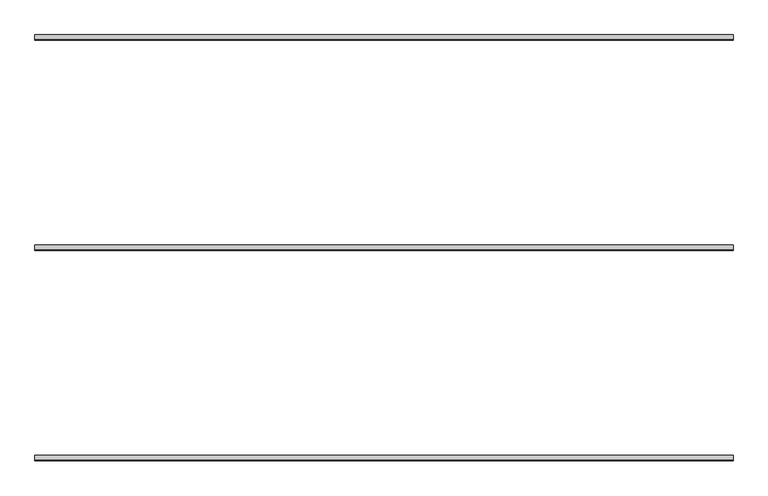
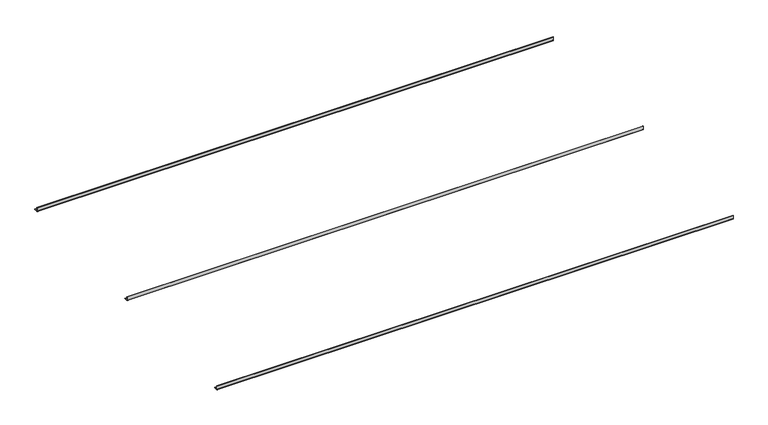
"""IFC4 building model written with IfcOpenShell, lengths in millimetres: proxy geometry, durlum_S4.7K : durlum_S4.7K."""

import ifcopenshell
import ifcopenshell.guid

model = None  # the IFC model being written
_history = None  # IfcOwnerHistory: only IFC2X3 demands one
_inside = {}  # id of a spatial element -> (the spatial element, [elements in it])
_under = {}  # id of a project, library or spatial element -> (it, [spatial elements below it])
_declared = {}  # id of a project -> (the project, [libraries it declares])
_typed = {}  # id of a type object -> (the type object, [elements of that type])
_made_of = {}  # id of a material, layer set ... -> (it, [elements and type objects made of it])


def new_model(schema):
    """Start an empty IFC model of exactly this schema.

    Asked for "IFC4X3", IfcOpenShell would pick the latest addendum, in which some entities
    have other attributes; the version numbers below select the first issue.
    IFC2X3 requires an IfcOwnerHistory on every rooted entity: one is made here for all.
    """
    global model, _history
    if schema == "IFC4X3":
        model = ifcopenshell.file(schema_version=(4, 3, 0, 0))
    else:
        model = ifcopenshell.file(schema=schema)
    _inside.clear()
    _under.clear()
    _declared.clear()
    _typed.clear()
    _made_of.clear()
    _history = None
    if model.schema == "IFC2X3":
        org = make("IfcOrganization", Name="unknown")
        user = make(
            "IfcPersonAndOrganization",
            ThePerson=make("IfcPerson", FamilyName="unknown"),
            TheOrganization=org,
        )
        app = make(
            "IfcApplication",
            ApplicationDeveloper=org,
            Version="unknown",
            ApplicationFullName="unknown",
            ApplicationIdentifier="unknown",
        )
        _history = make(
            "IfcOwnerHistory",
            OwningUser=user,
            OwningApplication=app,
            ChangeAction="ADDED",
            CreationDate=0,
        )
    return model


def make(cls, **values):
    """One entity of the class cls with the attributes given. An attribute that is None is left unset."""
    return model.create_entity(
        cls, **{name: value for name, value in values.items() if value is not None}
    )


def rooted(cls, **values):
    """An entity with a GlobalId (a new one), such as an element, a storey or a relation."""
    return make(cls, GlobalId=ifcopenshell.guid.new(), OwnerHistory=_history, **values)


def si_unit(unit_type, name, prefix=None):
    """IfcSIUnit, for example si_unit("LENGTHUNIT", "METRE", prefix="MILLI")."""
    return make("IfcSIUnit", UnitType=unit_type, Prefix=prefix, Name=name)


def assignment(units):
    """IfcUnitAssignment: the units of a project."""
    return None if units is None else make("IfcUnitAssignment", Units=units)


def point(xyz):
    """IfcCartesianPoint."""
    return None if xyz is None else make("IfcCartesianPoint", Coordinates=xyz)


def direction(xyz):
    """IfcDirection."""
    return None if xyz is None else make("IfcDirection", DirectionRatios=xyz)


def frame(location, z_axis=None, x_axis=None):
    """IfcAxis2Placement3D, a coordinate frame: its origin and axes. An axis left out is left unset."""
    return make(
        "IfcAxis2Placement3D",
        Location=point(location),
        Axis=direction(z_axis),
        RefDirection=direction(x_axis),
    )


def frame_2d(location, x_axis=None):
    """IfcAxis2Placement2D, a coordinate frame in the plane: its origin and x axis."""
    return make(
        "IfcAxis2Placement2D", Location=point(location), RefDirection=direction(x_axis)
    )


def origin():
    """The frame at (0, 0, 0) with its axes left unset."""
    return frame((0.0, 0.0, 0.0))


def place(relative_to, where):
    """IfcLocalPlacement: puts the frame where relative to a parent placement (None: the world)."""
    return make(
        "IfcLocalPlacement", PlacementRelTo=relative_to, RelativePlacement=where
    )


def context(
    kind, dimensions, precision=None, world=None, true_north=None, identifier=None
):
    """IfcGeometricRepresentationContext, for example the 3D "Model" context."""
    return make(
        "IfcGeometricRepresentationContext",
        ContextIdentifier=identifier,
        ContextType=kind,
        CoordinateSpaceDimension=dimensions,
        Precision=precision,
        WorldCoordinateSystem=world,
        TrueNorth=true_north,
    )


def project(units=None, contexts=None):
    """IfcProject with its units and contexts."""
    return rooted(
        "IfcProject",
        Name="project",
        RepresentationContexts=contexts,
        UnitsInContext=assignment(units),
    )


def spatial(cls, under=None, at=None, **own):
    """A site, building, storey or space (cls), placed at a placement, below another one or the project."""
    s = rooted(cls, ObjectPlacement=at, **own)
    if under is not None:
        _under.setdefault(under.id(), (under, []))[1].append(s)
    return s


def polyline(points):
    """IfcPolyline through the points."""
    return make("IfcPolyline", Points=[point(p) for p in points])


def circle_curve(where, radius):
    """IfcCircle in the frame where."""
    return make("IfcCircle", Position=where, Radius=radius)


def trimmed(basis, trim1, trim2, sense, master):
    """IfcTrimmedCurve: the piece of a basis curve between two trims."""
    return make(
        "IfcTrimmedCurve",
        BasisCurve=basis,
        Trim1=trim1,
        Trim2=trim2,
        SenseAgreement=sense,
        MasterRepresentation=master,
    )


def segment(curve, same_sense, transition):
    """IfcCompositeCurveSegment."""
    return make(
        "IfcCompositeCurveSegment",
        Transition=transition,
        SameSense=same_sense,
        ParentCurve=curve,
    )


def composite_curve(segments, self_intersect=None):
    """IfcCompositeCurve: segments joined end to end."""
    return make("IfcCompositeCurve", Segments=segments, SelfIntersect=self_intersect)


def outline(outer, holes=None, kind="AREA"):
    """IfcArbitraryClosedProfileDef: a profile drawn as a closed curve; with holes, ...WithVoids."""
    if holes is None:
        return make("IfcArbitraryClosedProfileDef", ProfileType=kind, OuterCurve=outer)
    return make(
        "IfcArbitraryProfileDefWithVoids",
        ProfileType=kind,
        OuterCurve=outer,
        InnerCurves=holes,
    )


def extrude(swept, where, along, depth):
    """IfcExtrudedAreaSolid: the profile swept, set in the frame where, extruded along a direction by depth."""
    return make(
        "IfcExtrudedAreaSolid",
        SweptArea=swept,
        Position=where,
        ExtrudedDirection=direction(along),
        Depth=depth,
    )


def shape(context_of_items, identifier, shape_type, items):
    """IfcShapeRepresentation: the items that make up one representation, for example the "Body"."""
    return make(
        "IfcShapeRepresentation",
        ContextOfItems=context_of_items,
        RepresentationIdentifier=identifier,
        RepresentationType=shape_type,
        Items=items,
    )


def source(mapping_origin, context_of_items, identifier, shape_type, items):
    """IfcRepresentationMap: a shape defined once, which mapped items show again and again."""
    return make(
        "IfcRepresentationMap",
        MappingOrigin=mapping_origin,
        MappedRepresentation=shape(context_of_items, identifier, shape_type, items),
    )


def transform(
    local_origin,
    x_axis=None,
    y_axis=None,
    z_axis=None,
    scale=None,
    scale2=None,
    scale3=None,
    uniform=True,
):
    """IfcCartesianTransformationOperator3D, or its non-uniform kind. x_axis, y_axis, z_axis: its Axis1, 2, 3."""
    if uniform:
        return make(
            "IfcCartesianTransformationOperator3D",
            Axis1=direction(x_axis),
            Axis2=direction(y_axis),
            LocalOrigin=point(local_origin),
            Scale=scale,
            Axis3=direction(z_axis),
        )
    return make(
        "IfcCartesianTransformationOperator3DnonUniform",
        Axis1=direction(x_axis),
        Axis2=direction(y_axis),
        LocalOrigin=point(local_origin),
        Scale=scale,
        Axis3=direction(z_axis),
        Scale2=scale2,
        Scale3=scale3,
    )


def mapped(mapping_source, mapping_target):
    """IfcMappedItem: shows the shape of a source again, moved by a transform."""
    return make(
        "IfcMappedItem", MappingSource=mapping_source, MappingTarget=mapping_target
    )


def made_of(thing, what):
    """Note that an element or type object is made of a material, layer set ...; save() writes the relation."""
    if what is not None:
        _made_of.setdefault(what.id(), (what, []))[1].append(thing)
    return thing


def element(
    cls,
    number,
    at=None,
    inside=None,
    cuts=None,
    type_object=None,
    material=None,
    context=None,
    identifier="Body",
    shape_type=None,
    held_by="IfcProductDefinitionShape",
    body=None,
    shapes=None,
    **own,
):
    """One element of the class cls, such as IfcWall. Its Tag is "e" and its number.

    at: its placement. inside: the storey or other place that contains it. cuts: it is an
    opening in that element (IfcRelVoidsElement). A single representation is given by context,
    identifier, shape_type and body (its items); several are given by shapes. held_by: the class
    of the entity that holds the representations. save() writes the other relations.
    """
    e = rooted(cls, Tag="e%d" % number, ObjectPlacement=at, **own)
    if body is not None:
        shapes = [shape(context, identifier, shape_type, body)]
    if shapes is not None:
        e.Representation = make(held_by, Representations=shapes)
    if inside is not None:
        _inside.setdefault(inside.id(), (inside, []))[1].append(e)
    if cuts is not None:
        rooted(
            "IfcRelVoidsElement", RelatingBuildingElement=cuts, RelatedOpeningElement=e
        )
    if type_object is not None:
        _typed.setdefault(type_object.id(), (type_object, []))[1].append(e)
    return made_of(e, material)


def aggregate(whole, parts):
    """IfcRelAggregates: a whole, such as a stair, and the parts it consists of."""
    return rooted("IfcRelAggregates", RelatingObject=whole, RelatedObjects=parts)


def save(model, path):
    """Write the relations noted so far, then the file.

    IfcRelAggregates (storeys below a building ...), IfcRelContainedInSpatialStructure (elements
    in a storey), IfcRelDefinesByType, IfcRelAssociatesMaterial and IfcRelDeclares: one each for
    every whole, place, type object, material and project.
    """
    for whole, parts in _under.values():
        aggregate(whole, parts)
    for where, things in _inside.values():
        rooted(
            "IfcRelContainedInSpatialStructure",
            RelatedElements=things,
            RelatingStructure=where,
        )
    for kind, things in _typed.values():
        rooted("IfcRelDefinesByType", RelatedObjects=things, RelatingType=kind)
    for what, things in _made_of.values():
        rooted("IfcRelAssociatesMaterial", RelatedObjects=things, RelatingMaterial=what)
    for by, libraries in _declared.values():
        rooted("IfcRelDeclares", RelatingContext=by, RelatedDefinitions=libraries)
    model.write(path)


def generic_models_d6b72831(model_context):
    return source(origin(), model_context, "Body", "SweptSolid", [
        extrude(outline(composite_curve([segment(polyline([(2.0, 2107.9), (2.0, 2082.0)]), True, "CONTINUOUS"), segment(trimmed(circle_curve(frame_2d((4.0, 2082.0)), 2.0), [point((2.0, 2082.0))], [point((4.0, 2080.0))], True, "CARTESIAN"), True, "CONTINUOUS"), segment(polyline([(4.0, 2080.0), (29.9, 2080.0), (29.9, 2078.0), (4.0, 2078.0)]), True, "CONTINUOUS"), segment(trimmed(circle_curve(frame_2d((4.0, 2082.0)), 4.0), [point((4.0, 2078.0))], [point((0.0, 2082.0))], False, "CARTESIAN"), True, "CONTINUOUS"), segment(polyline([(0.0, 2082.0), (0.0, 2107.9), (2.0, 2107.9)]), True, "CONTINUOUS")], self_intersect=False)), frame((-1990.0, 0.0, 0.0), z_axis=(1.0, 0.0, 0.0), x_axis=(0.0, 1.0, 0.0)), (0.0, 0.0, 1.0), 3980.0),
        extrude(outline(composite_curve([segment(polyline([(1202.0, 2107.9), (1202.0, 2082.0)]), True, "CONTINUOUS"), segment(trimmed(circle_curve(frame_2d((1204.0, 2082.0)), 2.0), [point((1202.0, 2082.0))], [point((1204.0, 2080.0))], True, "CARTESIAN"), True, "CONTINUOUS"), segment(polyline([(1204.0, 2080.0), (1229.9, 2080.0), (1229.9, 2078.0), (1204.0, 2078.0)]), True, "CONTINUOUS"), segment(trimmed(circle_curve(frame_2d((1204.0, 2082.0)), 4.0), [point((1204.0, 2078.0))], [point((1200.0, 2082.0))], False, "CARTESIAN"), True, "CONTINUOUS"), segment(polyline([(1200.0, 2082.0), (1200.0, 2107.9), (1202.0, 2107.9)]), True, "CONTINUOUS")], self_intersect=False)), frame((-1990.0, 0.0, 0.0), z_axis=(1.0, 0.0, 0.0), x_axis=(0.0, 1.0, 0.0)), (0.0, 0.0, 1.0), 3980.0),
        extrude(outline(composite_curve([segment(polyline([(-1198.0, 2107.9), (-1198.0, 2082.0)]), True, "CONTINUOUS"), segment(trimmed(circle_curve(frame_2d((-1196.0, 2082.0)), 2.0), [point((-1198.0, 2082.0))], [point((-1196.0, 2080.0))], True, "CARTESIAN"), True, "CONTINUOUS"), segment(polyline([(-1196.0, 2080.0), (-1170.1, 2080.0), (-1170.1, 2078.0), (-1196.0, 2078.0)]), True, "CONTINUOUS"), segment(trimmed(circle_curve(frame_2d((-1196.0, 2082.0)), 4.0), [point((-1196.0, 2078.0))], [point((-1200.0, 2082.0))], False, "CARTESIAN"), True, "CONTINUOUS"), segment(polyline([(-1200.0, 2082.0), (-1200.0, 2107.9), (-1198.0, 2107.9)]), True, "CONTINUOUS")], self_intersect=False)), frame((-1990.0, 0.0, 0.0), z_axis=(1.0, 0.0, 0.0), x_axis=(0.0, 1.0, 0.0)), (0.0, 0.0, 1.0), 3980.0),
    ])


if __name__ == "__main__":
    model = new_model("IFC4")
    model_context = context("Model", 3, world=origin())
    ifc_project = project(units=[si_unit("LENGTHUNIT", "METRE", prefix="MILLI")], contexts=[model_context])
    site = spatial("IfcSite", under=ifc_project)
    building = spatial("IfcBuilding", under=site)
    placement = place(None, origin())
    generic_models_shape = generic_models_d6b72831(model_context)
    element("IfcBuildingElementProxy", 1, Name="durlum_S4.7K : durlum_S4.7K", ObjectType="durlum_S4.7K : durlum_S4.7K", at=placement, inside=building, context=model_context, shape_type="MappedRepresentation", body=[
        mapped(generic_models_shape, transform((0.0, 0.0, 0.0), x_axis=(1.0, 0.0, 0.0), y_axis=(0.0, 1.0, 0.0), z_axis=(0.0, 0.0, 1.0))),
    ])
    save(model, "model.ifc")
